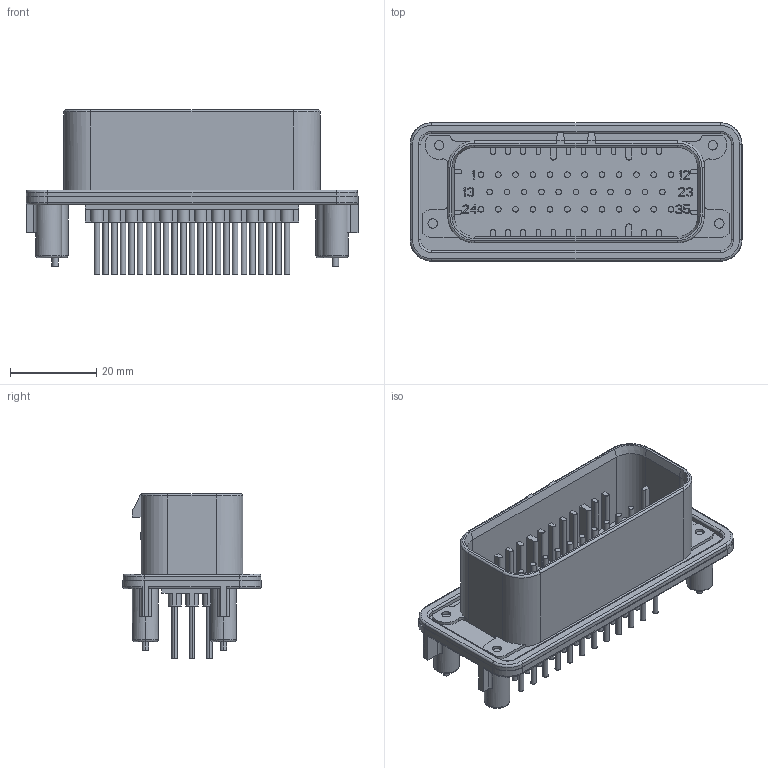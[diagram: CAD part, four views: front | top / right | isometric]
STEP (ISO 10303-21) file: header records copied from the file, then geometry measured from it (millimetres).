
FILE_DESCRIPTION((''),'2;1');
FILE_NAME('C-776231-5','2010-08-30T',('workeradm'),('Tyco Electronics Ltd.'),'PRO/ENGINEER BY PARAMETRIC TECHNOLOGY CORPORATION, 2009300','PRO/ENGINEER BY PARAMETRIC TECHNOLOGY CORPORATION, 2009300','');
FILE_SCHEMA(('AUTOMOTIVE_DESIGN { 1 0 10303 214 1 1 1 1 }'));
Length unit declared in the file: millimetre
Products named in the file (1): C-776231-5
Bounding box: 76.9 x 32.1 x 38.08 mm (x, y, z)
Volume: 14597.8 mm3; surface area: 17778.3 mm2
Topology: 1 solids, 1 shells, 1045 faces, 2789 edges, 1844 vertices
Faces by surface type: plane 694, cylinder 321, torus 24, cone 4, extrusion 2
Entity records: 32782 total; most frequent: CARTESIAN_POINT 5744, ORIENTED_EDGE 5578, DIRECTION 5553, EDGE_CURVE 2789, VECTOR 2095, LINE 2093, VERTEX_POINT 1844, AXIS2_PLACEMENT_3D 1729
